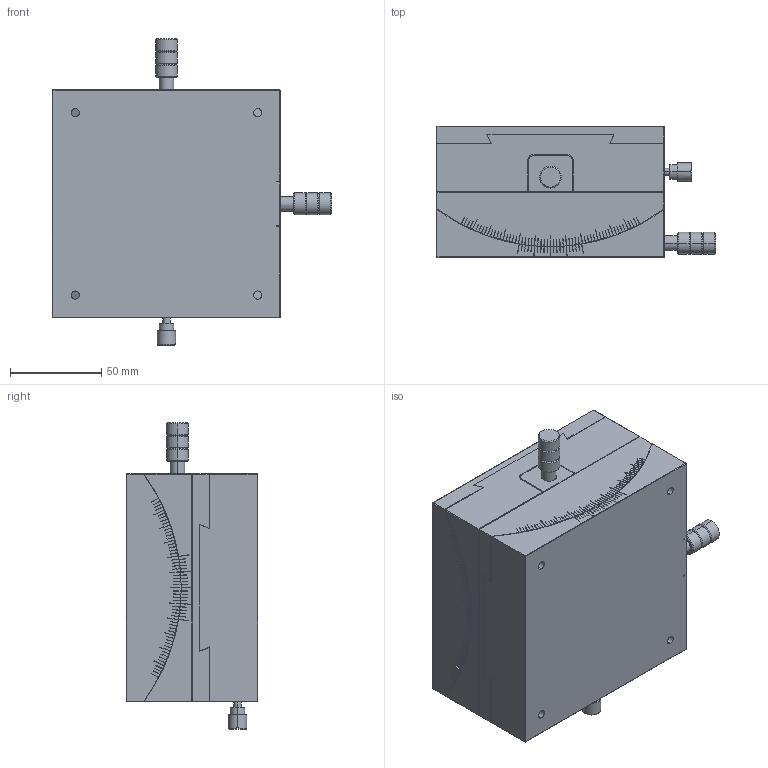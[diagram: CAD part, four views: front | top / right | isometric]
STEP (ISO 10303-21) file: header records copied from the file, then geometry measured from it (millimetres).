
FILE_DESCRIPTION (( 'STEP AP214' ), '1' );
FILE_NAME ('PT-SD318蚾饜极.STEP', '2025-01-03T09:28:40', ( '' ), ( '' ), 'SwSTEP 2.0', 'SolidWorks 2022', '' );
FILE_SCHEMA (( 'AUTOMOTIVE_DESIGN' ));
Length unit declared in the file: millimetre
Products named in the file (4): PT-SD318蚾饜极; PT-SD317 賑雄す怢; PT-SD317蚾饜极; PT-SD317 菁釱
Assembly tree (4 placements, depth 3):
  PT-SD318蚾饜极
    PT-SD317蚾饜极  x2
      PT-SD317 菁釱
      PT-SD317 賑雄す怢
Bounding box: 153 x 72 x 168 mm (x, y, z)
Volume: 1108526.9 mm3; surface area: 186224 mm2
Topology: 4 solids, 4 shells, 1188 faces, 3200 edges, 1990 vertices
Faces by surface type: plane 768, cone 236, cylinder 184
Entity records: 19004 total; most frequent: CARTESIAN_POINT 3553, DIRECTION 3120, ORIENTED_EDGE 3100, EDGE_CURVE 1550, LINE 1116, VECTOR 1116, AXIS2_PLACEMENT_3D 1002, VERTEX_POINT 995
